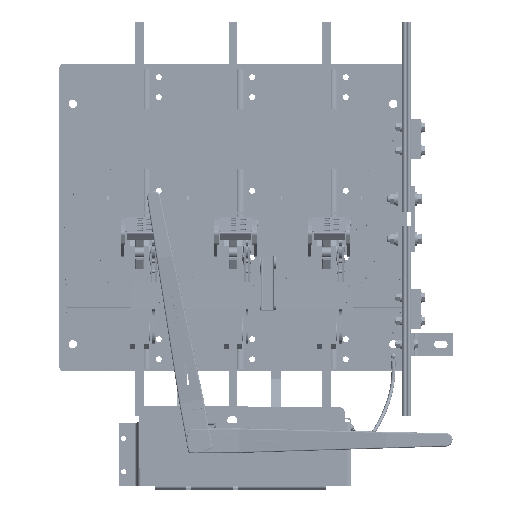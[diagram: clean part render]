
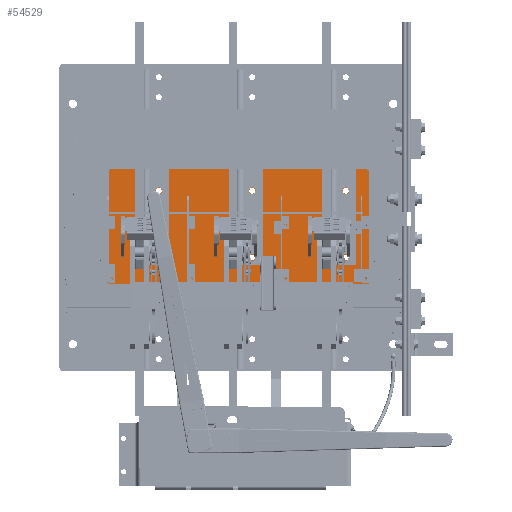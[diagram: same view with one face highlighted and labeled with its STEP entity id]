
A CAD part, top view. The second image highlights one B-rep face of the part: STEP entity #54529.
In plain terms, the highlighted planar face has unit normal (0, 0, 1).
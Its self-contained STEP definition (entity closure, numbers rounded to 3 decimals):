
#2454=FACE_BOUND('',#8953,.T.);
#2455=FACE_BOUND('',#8954,.T.);
#2456=FACE_BOUND('',#8955,.T.);
#2457=FACE_BOUND('',#8956,.T.);
#2458=FACE_BOUND('',#8957,.T.);
#2459=FACE_BOUND('',#8958,.T.);
#2460=FACE_BOUND('',#8959,.T.);
#2461=FACE_BOUND('',#8960,.T.);
#2462=FACE_BOUND('',#8961,.T.);
#2463=FACE_BOUND('',#8962,.T.);
#2464=FACE_BOUND('',#8963,.T.);
#2465=FACE_BOUND('',#8964,.T.);
#2466=FACE_BOUND('',#8965,.T.);
#2467=FACE_BOUND('',#8966,.T.);
#2468=FACE_BOUND('',#8967,.T.);
#2469=FACE_BOUND('',#8968,.T.);
#2470=FACE_BOUND('',#8969,.T.);
#3767=PLANE('',#59758);
#5717=FACE_OUTER_BOUND('',#8952,.T.);
#8952=EDGE_LOOP('',(#41543,#41544,#41545,#41546,#41547,#41548));
#8953=EDGE_LOOP('',(#41549));
#8954=EDGE_LOOP('',(#41550));
#8955=EDGE_LOOP('',(#41551));
#8956=EDGE_LOOP('',(#41552));
#8957=EDGE_LOOP('',(#41553));
#8958=EDGE_LOOP('',(#41554));
#8959=EDGE_LOOP('',(#41555));
#8960=EDGE_LOOP('',(#41556));
#8961=EDGE_LOOP('',(#41557));
#8962=EDGE_LOOP('',(#41558));
#8963=EDGE_LOOP('',(#41559));
#8964=EDGE_LOOP('',(#41560));
#8965=EDGE_LOOP('',(#41561));
#8966=EDGE_LOOP('',(#41562));
#8967=EDGE_LOOP('',(#41563));
#8968=EDGE_LOOP('',(#41564));
#8969=EDGE_LOOP('',(#41565));
#12717=CIRCLE('',#59541,0.07);
#12719=CIRCLE('',#59545,0.07);
#12721=CIRCLE('',#59549,0.07);
#12723=CIRCLE('',#59553,0.07);
#12725=CIRCLE('',#59557,0.07);
#12727=CIRCLE('',#59561,0.07);
#12729=CIRCLE('',#59565,0.07);
#12731=CIRCLE('',#59569,0.07);
#12735=CIRCLE('',#59577,0.219);
#12736=CIRCLE('',#59579,0.219);
#12737=CIRCLE('',#59581,0.219);
#12738=CIRCLE('',#59583,0.219);
#12739=CIRCLE('',#59585,0.219);
#12740=CIRCLE('',#59587,0.219);
#12741=CIRCLE('',#59589,0.219);
#12742=CIRCLE('',#59591,0.219);
#12743=CIRCLE('',#59593,0.219);
#12822=CIRCLE('',#59752,0.237);
#12823=CIRCLE('',#59757,0.237);
#16046=LINE('',#85660,#20367);
#16050=LINE('',#85669,#20371);
#16052=LINE('',#85673,#20373);
#16054=LINE('',#85677,#20375);
#20367=VECTOR('',#69148,0.394);
#20371=VECTOR('',#69158,0.394);
#20373=VECTOR('',#69162,0.394);
#20375=VECTOR('',#69166,0.394);
#24906=VERTEX_POINT('',#85201);
#24908=VERTEX_POINT('',#85208);
#24910=VERTEX_POINT('',#85215);
#24912=VERTEX_POINT('',#85222);
#24914=VERTEX_POINT('',#85229);
#24916=VERTEX_POINT('',#85236);
#24918=VERTEX_POINT('',#85243);
#24920=VERTEX_POINT('',#85250);
#24924=VERTEX_POINT('',#85264);
#24925=VERTEX_POINT('',#85268);
#24926=VERTEX_POINT('',#85272);
#24927=VERTEX_POINT('',#85276);
#24928=VERTEX_POINT('',#85280);
#24929=VERTEX_POINT('',#85284);
#24930=VERTEX_POINT('',#85288);
#24931=VERTEX_POINT('',#85292);
#24932=VERTEX_POINT('',#85296);
#25044=VERTEX_POINT('',#85658);
#25045=VERTEX_POINT('',#85659);
#25046=VERTEX_POINT('',#85664);
#25047=VERTEX_POINT('',#85668);
#25048=VERTEX_POINT('',#85672);
#25049=VERTEX_POINT('',#85676);
#30898=EDGE_CURVE('',#24906,#24906,#12717,.T.);
#30901=EDGE_CURVE('',#24908,#24908,#12719,.T.);
#30904=EDGE_CURVE('',#24910,#24910,#12721,.T.);
#30907=EDGE_CURVE('',#24912,#24912,#12723,.T.);
#30910=EDGE_CURVE('',#24914,#24914,#12725,.T.);
#30913=EDGE_CURVE('',#24916,#24916,#12727,.T.);
#30916=EDGE_CURVE('',#24918,#24918,#12729,.T.);
#30919=EDGE_CURVE('',#24920,#24920,#12731,.T.);
#30925=EDGE_CURVE('',#24924,#24924,#12735,.T.);
#30927=EDGE_CURVE('',#24925,#24925,#12736,.T.);
#30929=EDGE_CURVE('',#24926,#24926,#12737,.T.);
#30931=EDGE_CURVE('',#24927,#24927,#12738,.T.);
#30933=EDGE_CURVE('',#24928,#24928,#12739,.T.);
#30935=EDGE_CURVE('',#24929,#24929,#12740,.T.);
#30937=EDGE_CURVE('',#24930,#24930,#12741,.T.);
#30939=EDGE_CURVE('',#24931,#24931,#12742,.T.);
#30941=EDGE_CURVE('',#24932,#24932,#12743,.T.);
#31112=EDGE_CURVE('',#25044,#25045,#16046,.T.);
#31115=EDGE_CURVE('',#25045,#25046,#12822,.T.);
#31117=EDGE_CURVE('',#25046,#25047,#16050,.T.);
#31119=EDGE_CURVE('',#25047,#25048,#16052,.T.);
#31121=EDGE_CURVE('',#25048,#25049,#16054,.T.);
#31123=EDGE_CURVE('',#25049,#25044,#12823,.T.);
#41543=ORIENTED_EDGE('',*,*,#31112,.F.);
#41544=ORIENTED_EDGE('',*,*,#31123,.F.);
#41545=ORIENTED_EDGE('',*,*,#31121,.F.);
#41546=ORIENTED_EDGE('',*,*,#31119,.F.);
#41547=ORIENTED_EDGE('',*,*,#31117,.F.);
#41548=ORIENTED_EDGE('',*,*,#31115,.F.);
#41549=ORIENTED_EDGE('',*,*,#30898,.T.);
#41550=ORIENTED_EDGE('',*,*,#30901,.T.);
#41551=ORIENTED_EDGE('',*,*,#30904,.T.);
#41552=ORIENTED_EDGE('',*,*,#30907,.T.);
#41553=ORIENTED_EDGE('',*,*,#30910,.T.);
#41554=ORIENTED_EDGE('',*,*,#30913,.T.);
#41555=ORIENTED_EDGE('',*,*,#30916,.T.);
#41556=ORIENTED_EDGE('',*,*,#30919,.T.);
#41557=ORIENTED_EDGE('',*,*,#30925,.T.);
#41558=ORIENTED_EDGE('',*,*,#30927,.T.);
#41559=ORIENTED_EDGE('',*,*,#30929,.T.);
#41560=ORIENTED_EDGE('',*,*,#30931,.T.);
#41561=ORIENTED_EDGE('',*,*,#30933,.T.);
#41562=ORIENTED_EDGE('',*,*,#30935,.T.);
#41563=ORIENTED_EDGE('',*,*,#30937,.T.);
#41564=ORIENTED_EDGE('',*,*,#30939,.T.);
#41565=ORIENTED_EDGE('',*,*,#30941,.T.);
#54529=ADVANCED_FACE('',(#5717,#2454,#2455,#2456,#2457,#2458,#2459,#2460,
#2461,#2462,#2463,#2464,#2465,#2466,#2467,#2468,#2469,#2470),#3767,.T.);
#59541=AXIS2_PLACEMENT_3D('',#85202,#68619,#68620);
#59545=AXIS2_PLACEMENT_3D('',#85209,#68628,#68629);
#59549=AXIS2_PLACEMENT_3D('',#85216,#68637,#68638);
#59553=AXIS2_PLACEMENT_3D('',#85223,#68646,#68647);
#59557=AXIS2_PLACEMENT_3D('',#85230,#68655,#68656);
#59561=AXIS2_PLACEMENT_3D('',#85237,#68664,#68665);
#59565=AXIS2_PLACEMENT_3D('',#85244,#68673,#68674);
#59569=AXIS2_PLACEMENT_3D('',#85251,#68682,#68683);
#59577=AXIS2_PLACEMENT_3D('',#85265,#68700,#68701);
#59579=AXIS2_PLACEMENT_3D('',#85269,#68705,#68706);
#59581=AXIS2_PLACEMENT_3D('',#85273,#68710,#68711);
#59583=AXIS2_PLACEMENT_3D('',#85277,#68715,#68716);
#59585=AXIS2_PLACEMENT_3D('',#85281,#68720,#68721);
#59587=AXIS2_PLACEMENT_3D('',#85285,#68725,#68726);
#59589=AXIS2_PLACEMENT_3D('',#85289,#68730,#68731);
#59591=AXIS2_PLACEMENT_3D('',#85293,#68735,#68736);
#59593=AXIS2_PLACEMENT_3D('',#85297,#68740,#68741);
#59752=AXIS2_PLACEMENT_3D('',#85665,#69153,#69154);
#59757=AXIS2_PLACEMENT_3D('',#85680,#69170,#69171);
#59758=AXIS2_PLACEMENT_3D('',#85681,#69172,#69173);
#68619=DIRECTION('center_axis',(0.,0.,-1.));
#68620=DIRECTION('ref_axis',(-1.,0.,0.));
#68628=DIRECTION('center_axis',(0.,0.,-1.));
#68629=DIRECTION('ref_axis',(-1.,0.,0.));
#68637=DIRECTION('center_axis',(0.,0.,-1.));
#68638=DIRECTION('ref_axis',(-1.,0.,0.));
#68646=DIRECTION('center_axis',(0.,0.,-1.));
#68647=DIRECTION('ref_axis',(-1.,0.,0.));
#68655=DIRECTION('center_axis',(0.,0.,-1.));
#68656=DIRECTION('ref_axis',(-1.,0.,0.));
#68664=DIRECTION('center_axis',(0.,0.,-1.));
#68665=DIRECTION('ref_axis',(-1.,0.,0.));
#68673=DIRECTION('center_axis',(0.,0.,-1.));
#68674=DIRECTION('ref_axis',(-1.,0.,0.));
#68682=DIRECTION('center_axis',(0.,0.,-1.));
#68683=DIRECTION('ref_axis',(-1.,0.,0.));
#68700=DIRECTION('center_axis',(0.,0.,-1.));
#68701=DIRECTION('ref_axis',(-1.,0.,0.));
#68705=DIRECTION('center_axis',(0.,0.,-1.));
#68706=DIRECTION('ref_axis',(-1.,0.,0.));
#68710=DIRECTION('center_axis',(0.,0.,-1.));
#68711=DIRECTION('ref_axis',(-1.,0.,0.));
#68715=DIRECTION('center_axis',(0.,0.,-1.));
#68716=DIRECTION('ref_axis',(-1.,0.,0.));
#68720=DIRECTION('center_axis',(0.,0.,-1.));
#68721=DIRECTION('ref_axis',(-1.,0.,0.));
#68725=DIRECTION('center_axis',(0.,0.,-1.));
#68726=DIRECTION('ref_axis',(-1.,0.,0.));
#68730=DIRECTION('center_axis',(0.,0.,-1.));
#68731=DIRECTION('ref_axis',(-1.,0.,0.));
#68735=DIRECTION('center_axis',(0.,0.,-1.));
#68736=DIRECTION('ref_axis',(-1.,0.,0.));
#68740=DIRECTION('center_axis',(0.,0.,-1.));
#68741=DIRECTION('ref_axis',(-1.,0.,0.));
#69148=DIRECTION('',(1.,0.,0.));
#69153=DIRECTION('center_axis',(0.,0.,-1.));
#69154=DIRECTION('ref_axis',(-1.,0.,0.));
#69158=DIRECTION('',(0.,-1.,0.));
#69162=DIRECTION('',(-1.,0.,0.));
#69166=DIRECTION('',(0.,1.,0.));
#69170=DIRECTION('center_axis',(0.,0.,-1.));
#69171=DIRECTION('ref_axis',(0.,-1.,0.));
#69172=DIRECTION('center_axis',(0.,0.,1.));
#69173=DIRECTION('ref_axis',(1.,0.,0.));
#85201=CARTESIAN_POINT('',(38.758,-12.063,0.5));
#85202=CARTESIAN_POINT('Origin',(38.688,-12.063,0.5));
#85208=CARTESIAN_POINT('',(45.758,-12.063,0.5));
#85209=CARTESIAN_POINT('Origin',(45.688,-12.063,0.5));
#85215=CARTESIAN_POINT('',(51.758,-12.063,0.5));
#85216=CARTESIAN_POINT('Origin',(51.688,-12.063,0.5));
#85222=CARTESIAN_POINT('',(51.758,-16.063,0.5));
#85223=CARTESIAN_POINT('Origin',(51.688,-16.063,0.5));
#85229=CARTESIAN_POINT('',(45.758,-16.063,0.5));
#85230=CARTESIAN_POINT('Origin',(45.688,-16.063,0.5));
#85236=CARTESIAN_POINT('',(38.758,-16.063,0.5));
#85237=CARTESIAN_POINT('Origin',(38.688,-16.063,0.5));
#85243=CARTESIAN_POINT('',(32.758,-16.063,0.5));
#85244=CARTESIAN_POINT('Origin',(32.688,-16.063,0.5));
#85250=CARTESIAN_POINT('',(32.758,-12.063,0.5));
#85251=CARTESIAN_POINT('Origin',(32.688,-12.063,0.5));
#85264=CARTESIAN_POINT('',(50.406,-9.5,0.5));
#85265=CARTESIAN_POINT('Origin',(50.188,-9.5,0.5));
#85268=CARTESIAN_POINT('',(50.406,-12.,0.5));
#85269=CARTESIAN_POINT('Origin',(50.188,-12.,0.5));
#85272=CARTESIAN_POINT('',(50.406,-14.5,0.5));
#85273=CARTESIAN_POINT('Origin',(50.188,-14.5,0.5));
#85276=CARTESIAN_POINT('',(43.406,-9.5,0.5));
#85277=CARTESIAN_POINT('Origin',(43.188,-9.5,0.5));
#85280=CARTESIAN_POINT('',(43.406,-12.,0.5));
#85281=CARTESIAN_POINT('Origin',(43.188,-12.,0.5));
#85284=CARTESIAN_POINT('',(43.406,-14.5,0.5));
#85285=CARTESIAN_POINT('Origin',(43.188,-14.5,0.5));
#85288=CARTESIAN_POINT('',(36.406,-14.5,0.5));
#85289=CARTESIAN_POINT('Origin',(36.188,-14.5,0.5));
#85292=CARTESIAN_POINT('',(36.406,-12.,0.5));
#85293=CARTESIAN_POINT('Origin',(36.188,-12.,0.5));
#85296=CARTESIAN_POINT('',(36.406,-9.5,0.5));
#85297=CARTESIAN_POINT('Origin',(36.188,-9.5,0.5));
#85658=CARTESIAN_POINT('',(32.688,-7.888,0.5));
#85659=CARTESIAN_POINT('',(51.688,-7.888,0.5));
#85660=CARTESIAN_POINT('',(32.688,-7.888,0.5));
#85664=CARTESIAN_POINT('',(51.924,-8.125,0.5));
#85665=CARTESIAN_POINT('Origin',(51.688,-8.125,0.5));
#85668=CARTESIAN_POINT('',(51.924,-16.461,0.5));
#85669=CARTESIAN_POINT('',(51.924,-8.125,0.5));
#85672=CARTESIAN_POINT('',(32.451,-16.461,0.5));
#85673=CARTESIAN_POINT('',(51.938,-16.461,0.5));
#85676=CARTESIAN_POINT('',(32.451,-8.125,0.5));
#85677=CARTESIAN_POINT('',(32.451,-16.474,0.5));
#85680=CARTESIAN_POINT('Origin',(32.688,-8.125,0.5));
#85681=CARTESIAN_POINT('Origin',(42.188,-12.191,0.5));
